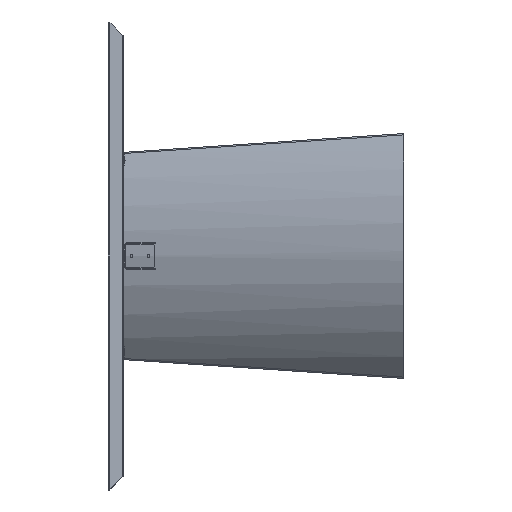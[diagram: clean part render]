
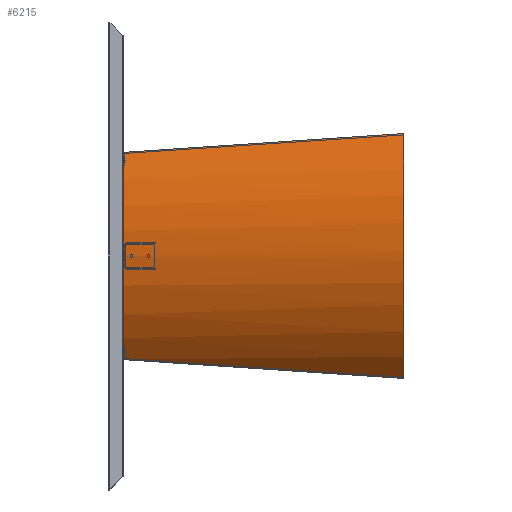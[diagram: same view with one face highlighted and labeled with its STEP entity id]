
A CAD part, left-side view. The second image highlights one B-rep face of the part: STEP entity #6215.
In plain terms, the highlighted cylindrical face has radius 455 mm (diameter 910 mm), a partial arc.
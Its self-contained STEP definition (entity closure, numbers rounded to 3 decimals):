
#7 = CARTESIAN_POINT ( 'NONE',  ( -187.694, 720., -216.518 ) ) ;
#45 = ORIENTED_EDGE ( 'NONE', *, *, #2926, .T. ) ;
#331 = EDGE_CURVE ( 'NONE', #3889, #11182, #14257, .T. ) ;
#426 = EDGE_CURVE ( 'NONE', #4015, #11921, #2350, .T. ) ;
#454 = CARTESIAN_POINT ( 'NONE',  ( 187.694, 720., -216.518 ) ) ;
#1268 = EDGE_CURVE ( 'NONE', #5386, #11851, #5912, .T. ) ;
#1339 = CARTESIAN_POINT ( 'NONE',  ( -298.867, 241.995, -177.363 ) ) ;
#1485 = CARTESIAN_POINT ( 'NONE',  ( -282.752, 482.074, -225.637 ) ) ;
#1621 = CARTESIAN_POINT ( 'NONE',  ( -231.469, 1.123, -48.677 ) ) ;
#1666 = CARTESIAN_POINT ( 'NONE',  ( 0., 720., -186.04 ) ) ;
#1757 = ORIENTED_EDGE ( 'NONE', *, *, #331, .T. ) ;
#2344 = CARTESIAN_POINT ( 'NONE',  ( 0., 720., -186.04 ) ) ;
#2350 =( BOUNDED_CURVE ( )  B_SPLINE_CURVE ( 3, ( #8582, #1621, #5245, #4110 ),
 .UNSPECIFIED., .F., .F. ) 
 B_SPLINE_CURVE_WITH_KNOTS ( ( 4, 4 ),
 ( 5.521, 6.257 ),
 .UNSPECIFIED. ) 
 CURVE ( )  GEOMETRIC_REPRESENTATION_ITEM ( )  RATIONAL_B_SPLINE_CURVE ( ( 1., 0.955, 0.955, 1. ) ) 
 REPRESENTATION_ITEM ( '' )  );
#2620 = DIRECTION ( 'NONE',  ( 0., -0.968, 0.25 ) ) ;
#2906 = FACE_OUTER_BOUND ( 'NONE', #10539, .T. ) ;
#2926 = EDGE_CURVE ( 'NONE', #11182, #5386, #13683, .T. ) ;
#3026 = CARTESIAN_POINT ( 'NONE',  ( -314.022, 0.906, -129.942 ) ) ;
#3060 = CARTESIAN_POINT ( 'NONE',  ( 0., 690.447, -648.367 ) ) ;
#3235 = CARTESIAN_POINT ( 'NONE',  ( 265.753, 720., -274.535 ) ) ;
#3497 = ORIENTED_EDGE ( 'NONE', *, *, #1268, .T. ) ;
#3889 = VERTEX_POINT ( 'NONE', #4851 ) ;
#4015 = VERTEX_POINT ( 'NONE', #3026 ) ;
#4110 = CARTESIAN_POINT ( 'NONE',  ( -12.104, 1.251, -0.325 ) ) ;
#4851 = CARTESIAN_POINT ( 'NONE',  ( 314.022, 0.906, -129.942 ) ) ;
#5195 = CARTESIAN_POINT ( 'NONE',  ( -265.753, 720., -274.535 ) ) ;
#5245 = CARTESIAN_POINT ( 'NONE',  ( -126.14, 1.243, -3.458 ) ) ;
#5386 = VERTEX_POINT ( 'NONE', #8881 ) ;
#5462 = ORIENTED_EDGE ( 'NONE', *, *, #8326, .F. ) ;
#5912 =( BOUNDED_CURVE ( )  B_SPLINE_CURVE ( 3, ( #2344, #10395, #7, #7022 ),
 .UNSPECIFIED., .F., .F. ) 
 B_SPLINE_CURVE_WITH_KNOTS ( ( 4, 4 ),
 ( 0., 0.624 ),
 .UNSPECIFIED. ) 
 CURVE ( )  GEOMETRIC_REPRESENTATION_ITEM ( )  RATIONAL_B_SPLINE_CURVE ( ( 1., 0.968, 0.968, 1. ) ) 
 REPRESENTATION_ITEM ( '' )  );
#6079 = DIRECTION ( 'NONE',  ( -1., 0., 0. ) ) ;
#6161 = CIRCLE ( 'NONE', #14656, 455. ) ;
#6215 = ADVANCED_FACE ( 'NONE', ( #2906 ), #10661, .T. ) ;
#6258 = CARTESIAN_POINT ( 'NONE',  ( 265.753, 720., -274.535 ) ) ;
#6928 = CARTESIAN_POINT ( 'NONE',  ( 314.022, 0.906, -129.942 ) ) ;
#7022 = CARTESIAN_POINT ( 'NONE',  ( -265.753, 720., -274.535 ) ) ;
#7304 = CARTESIAN_POINT ( 'NONE',  ( -265.753, 720., -274.535 ) ) ;
#8326 = EDGE_CURVE ( 'NONE', #11339, #11921, #6161, .T. ) ;
#8441 = CARTESIAN_POINT ( 'NONE',  ( 265.753, 720., -274.535 ) ) ;
#8526 = CARTESIAN_POINT ( 'NONE',  ( -314.022, 0.906, -129.942 ) ) ;
#8582 = CARTESIAN_POINT ( 'NONE',  ( -314.022, 0.906, -129.942 ) ) ;
#8881 = CARTESIAN_POINT ( 'NONE',  ( 0., 720., -186.04 ) ) ;
#9119 = AXIS2_PLACEMENT_3D ( 'NONE', #3060, #2620, #9973 ) ;
#9301 = CARTESIAN_POINT ( 'NONE',  ( 126.14, 1.243, -3.458 ) ) ;
#9513 = CARTESIAN_POINT ( 'NONE',  ( 314.022, 0.906, -129.942 ) ) ;
#9601 = CARTESIAN_POINT ( 'NONE',  ( 282.752, 482.074, -225.637 ) ) ;
#9973 = DIRECTION ( 'NONE',  ( 0., -0.25, -0.968 ) ) ;
#10395 = CARTESIAN_POINT ( 'NONE',  ( -96.167, 720., -186.04 ) ) ;
#10443 = CARTESIAN_POINT ( 'NONE',  ( 12.104, 1.251, -0.325 ) ) ;
#10539 = EDGE_LOOP ( 'NONE', ( #45, #3497, #14898, #11395, #5462, #13153, #1757 ) ) ;
#10661 = CYLINDRICAL_SURFACE ( 'NONE', #9119, 455. ) ;
#10722 = CARTESIAN_POINT ( 'NONE',  ( 231.469, 1.123, -48.677 ) ) ;
#10806 = CARTESIAN_POINT ( 'NONE',  ( 0., -112.631, -440.677 ) ) ;
#11182 = VERTEX_POINT ( 'NONE', #3235 ) ;
#11339 = VERTEX_POINT ( 'NONE', #10443 ) ;
#11395 = ORIENTED_EDGE ( 'NONE', *, *, #426, .T. ) ;
#11415 = EDGE_CURVE ( 'NONE', #4015, #11851, #14652, .T. ) ;
#11851 = VERTEX_POINT ( 'NONE', #5195 ) ;
#11921 = VERTEX_POINT ( 'NONE', #14297 ) ;
#12274 = CARTESIAN_POINT ( 'NONE',  ( 96.167, 720., -186.04 ) ) ;
#13153 = ORIENTED_EDGE ( 'NONE', *, *, #13733, .T. ) ;
#13683 =( BOUNDED_CURVE ( )  B_SPLINE_CURVE ( 3, ( #6258, #454, #12274, #1666 ),
 .UNSPECIFIED., .F., .F. ) 
 B_SPLINE_CURVE_WITH_KNOTS ( ( 4, 4 ),
 ( 5.659, 6.283 ),
 .UNSPECIFIED. ) 
 CURVE ( )  GEOMETRIC_REPRESENTATION_ITEM ( )  RATIONAL_B_SPLINE_CURVE ( ( 1., 0.968, 0.968, 1. ) ) 
 REPRESENTATION_ITEM ( '' )  );
#13733 = EDGE_CURVE ( 'NONE', #11339, #3889, #14555, .T. ) ;
#13997 = CARTESIAN_POINT ( 'NONE',  ( 12.104, 1.251, -0.325 ) ) ;
#14114 = CARTESIAN_POINT ( 'NONE',  ( 298.867, 241.995, -177.363 ) ) ;
#14257 =( BOUNDED_CURVE ( )  B_SPLINE_CURVE ( 3, ( #9513, #14114, #9601, #8441 ),
 .UNSPECIFIED., .F., .F. ) 
 B_SPLINE_CURVE_WITH_KNOTS ( ( 4, 4 ),
 ( 1.582, 1.719 ),
 .UNSPECIFIED. ) 
 CURVE ( )  GEOMETRIC_REPRESENTATION_ITEM ( )  RATIONAL_B_SPLINE_CURVE ( ( 1., 0.998, 0.998, 1. ) ) 
 REPRESENTATION_ITEM ( '' )  );
#14297 = CARTESIAN_POINT ( 'NONE',  ( -12.104, 1.251, -0.325 ) ) ;
#14510 = DIRECTION ( 'NONE',  ( 0., -0.968, 0.25 ) ) ;
#14555 =( BOUNDED_CURVE ( )  B_SPLINE_CURVE ( 3, ( #13997, #9301, #10722, #6928 ),
 .UNSPECIFIED., .F., .F. ) 
 B_SPLINE_CURVE_WITH_KNOTS ( ( 4, 4 ),
 ( 0.027, 0.762 ),
 .UNSPECIFIED. ) 
 CURVE ( )  GEOMETRIC_REPRESENTATION_ITEM ( )  RATIONAL_B_SPLINE_CURVE ( ( 1., 0.955, 0.955, 1. ) ) 
 REPRESENTATION_ITEM ( '' )  );
#14652 =( BOUNDED_CURVE ( )  B_SPLINE_CURVE ( 3, ( #8526, #1339, #1485, #7304 ),
 .UNSPECIFIED., .F., .F. ) 
 B_SPLINE_CURVE_WITH_KNOTS ( ( 4, 4 ),
 ( 1.582, 1.719 ),
 .UNSPECIFIED. ) 
 CURVE ( )  GEOMETRIC_REPRESENTATION_ITEM ( )  RATIONAL_B_SPLINE_CURVE ( ( 1., 0.998, 0.998, 1. ) ) 
 REPRESENTATION_ITEM ( '' )  );
#14656 = AXIS2_PLACEMENT_3D ( 'NONE', #10806, #14510, #6079 ) ;
#14898 = ORIENTED_EDGE ( 'NONE', *, *, #11415, .F. ) ;
